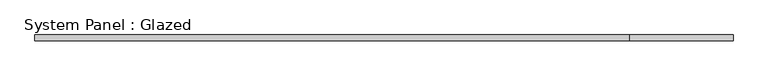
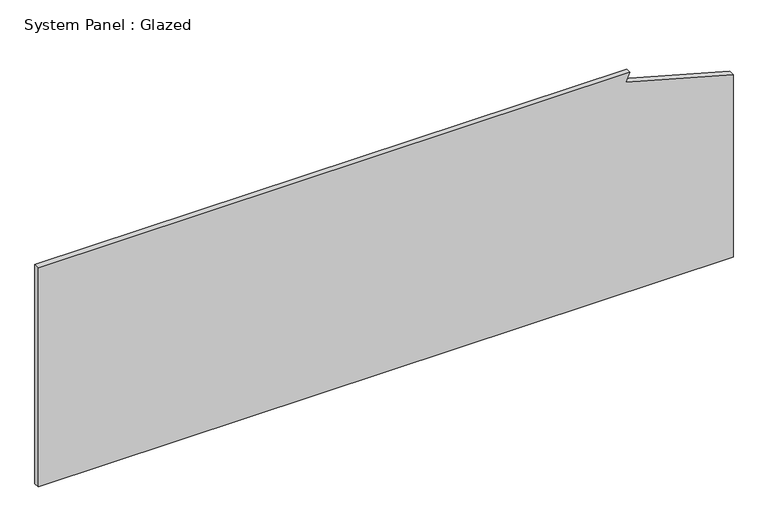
"""IFC4 building model written with IfcOpenShell, lengths in millimetres: plate geometry, System Panel : Glazed."""

import ifcopenshell
import ifcopenshell.guid

model = None  # the IFC model being written
_history = None  # IfcOwnerHistory: only IFC2X3 demands one
_inside = {}  # id of a spatial element -> (the spatial element, [elements in it])
_under = {}  # id of a project, library or spatial element -> (it, [spatial elements below it])
_declared = {}  # id of a project -> (the project, [libraries it declares])
_typed = {}  # id of a type object -> (the type object, [elements of that type])
_made_of = {}  # id of a material, layer set ... -> (it, [elements and type objects made of it])


def new_model(schema):
    """Start an empty IFC model of exactly this schema.

    Asked for "IFC4X3", IfcOpenShell would pick the latest addendum, in which some entities
    have other attributes; the version numbers below select the first issue.
    IFC2X3 requires an IfcOwnerHistory on every rooted entity: one is made here for all.
    """
    global model, _history
    if schema == "IFC4X3":
        model = ifcopenshell.file(schema_version=(4, 3, 0, 0))
    else:
        model = ifcopenshell.file(schema=schema)
    _inside.clear()
    _under.clear()
    _declared.clear()
    _typed.clear()
    _made_of.clear()
    _history = None
    if model.schema == "IFC2X3":
        org = make("IfcOrganization", Name="unknown")
        user = make(
            "IfcPersonAndOrganization",
            ThePerson=make("IfcPerson", FamilyName="unknown"),
            TheOrganization=org,
        )
        app = make(
            "IfcApplication",
            ApplicationDeveloper=org,
            Version="unknown",
            ApplicationFullName="unknown",
            ApplicationIdentifier="unknown",
        )
        _history = make(
            "IfcOwnerHistory",
            OwningUser=user,
            OwningApplication=app,
            ChangeAction="ADDED",
            CreationDate=0,
        )
    return model


def make(cls, **values):
    """One entity of the class cls with the attributes given. An attribute that is None is left unset."""
    return model.create_entity(
        cls, **{name: value for name, value in values.items() if value is not None}
    )


def rooted(cls, **values):
    """An entity with a GlobalId (a new one), such as an element, a storey or a relation."""
    return make(cls, GlobalId=ifcopenshell.guid.new(), OwnerHistory=_history, **values)


def si_unit(unit_type, name, prefix=None):
    """IfcSIUnit, for example si_unit("LENGTHUNIT", "METRE", prefix="MILLI")."""
    return make("IfcSIUnit", UnitType=unit_type, Prefix=prefix, Name=name)


def assignment(units):
    """IfcUnitAssignment: the units of a project."""
    return None if units is None else make("IfcUnitAssignment", Units=units)


def point(xyz):
    """IfcCartesianPoint."""
    return None if xyz is None else make("IfcCartesianPoint", Coordinates=xyz)


def direction(xyz):
    """IfcDirection."""
    return None if xyz is None else make("IfcDirection", DirectionRatios=xyz)


def frame(location, z_axis=None, x_axis=None):
    """IfcAxis2Placement3D, a coordinate frame: its origin and axes. An axis left out is left unset."""
    return make(
        "IfcAxis2Placement3D",
        Location=point(location),
        Axis=direction(z_axis),
        RefDirection=direction(x_axis),
    )


def origin():
    """The frame at (0, 0, 0) with its axes left unset."""
    return frame((0.0, 0.0, 0.0))


def place(relative_to, where):
    """IfcLocalPlacement: puts the frame where relative to a parent placement (None: the world)."""
    return make(
        "IfcLocalPlacement", PlacementRelTo=relative_to, RelativePlacement=where
    )


def context(
    kind, dimensions, precision=None, world=None, true_north=None, identifier=None
):
    """IfcGeometricRepresentationContext, for example the 3D "Model" context."""
    return make(
        "IfcGeometricRepresentationContext",
        ContextIdentifier=identifier,
        ContextType=kind,
        CoordinateSpaceDimension=dimensions,
        Precision=precision,
        WorldCoordinateSystem=world,
        TrueNorth=true_north,
    )


def project(units=None, contexts=None):
    """IfcProject with its units and contexts."""
    return rooted(
        "IfcProject",
        Name="project",
        RepresentationContexts=contexts,
        UnitsInContext=assignment(units),
    )


def spatial(cls, under=None, at=None, **own):
    """A site, building, storey or space (cls), placed at a placement, below another one or the project."""
    s = rooted(cls, ObjectPlacement=at, **own)
    if under is not None:
        _under.setdefault(under.id(), (under, []))[1].append(s)
    return s


def polyline(points):
    """IfcPolyline through the points."""
    return make("IfcPolyline", Points=[point(p) for p in points])


def outline(outer, holes=None, kind="AREA"):
    """IfcArbitraryClosedProfileDef: a profile drawn as a closed curve; with holes, ...WithVoids."""
    if holes is None:
        return make("IfcArbitraryClosedProfileDef", ProfileType=kind, OuterCurve=outer)
    return make(
        "IfcArbitraryProfileDefWithVoids",
        ProfileType=kind,
        OuterCurve=outer,
        InnerCurves=holes,
    )


def extrude(swept, where, along, depth):
    """IfcExtrudedAreaSolid: the profile swept, set in the frame where, extruded along a direction by depth."""
    return make(
        "IfcExtrudedAreaSolid",
        SweptArea=swept,
        Position=where,
        ExtrudedDirection=direction(along),
        Depth=depth,
    )


def shape(context_of_items, identifier, shape_type, items):
    """IfcShapeRepresentation: the items that make up one representation, for example the "Body"."""
    return make(
        "IfcShapeRepresentation",
        ContextOfItems=context_of_items,
        RepresentationIdentifier=identifier,
        RepresentationType=shape_type,
        Items=items,
    )


def source(mapping_origin, context_of_items, identifier, shape_type, items):
    """IfcRepresentationMap: a shape defined once, which mapped items show again and again."""
    return make(
        "IfcRepresentationMap",
        MappingOrigin=mapping_origin,
        MappedRepresentation=shape(context_of_items, identifier, shape_type, items),
    )


def transform(
    local_origin,
    x_axis=None,
    y_axis=None,
    z_axis=None,
    scale=None,
    scale2=None,
    scale3=None,
    uniform=True,
):
    """IfcCartesianTransformationOperator3D, or its non-uniform kind. x_axis, y_axis, z_axis: its Axis1, 2, 3."""
    if uniform:
        return make(
            "IfcCartesianTransformationOperator3D",
            Axis1=direction(x_axis),
            Axis2=direction(y_axis),
            LocalOrigin=point(local_origin),
            Scale=scale,
            Axis3=direction(z_axis),
        )
    return make(
        "IfcCartesianTransformationOperator3DnonUniform",
        Axis1=direction(x_axis),
        Axis2=direction(y_axis),
        LocalOrigin=point(local_origin),
        Scale=scale,
        Axis3=direction(z_axis),
        Scale2=scale2,
        Scale3=scale3,
    )


def mapped(mapping_source, mapping_target):
    """IfcMappedItem: shows the shape of a source again, moved by a transform."""
    return make(
        "IfcMappedItem", MappingSource=mapping_source, MappingTarget=mapping_target
    )


def made_of(thing, what):
    """Note that an element or type object is made of a material, layer set ...; save() writes the relation."""
    if what is not None:
        _made_of.setdefault(what.id(), (what, []))[1].append(thing)
    return thing


def element(
    cls,
    number,
    at=None,
    inside=None,
    cuts=None,
    type_object=None,
    material=None,
    context=None,
    identifier="Body",
    shape_type=None,
    held_by="IfcProductDefinitionShape",
    body=None,
    shapes=None,
    **own,
):
    """One element of the class cls, such as IfcWall. Its Tag is "e" and its number.

    at: its placement. inside: the storey or other place that contains it. cuts: it is an
    opening in that element (IfcRelVoidsElement). A single representation is given by context,
    identifier, shape_type and body (its items); several are given by shapes. held_by: the class
    of the entity that holds the representations. save() writes the other relations.
    """
    e = rooted(cls, Tag="e%d" % number, ObjectPlacement=at, **own)
    if body is not None:
        shapes = [shape(context, identifier, shape_type, body)]
    if shapes is not None:
        e.Representation = make(held_by, Representations=shapes)
    if inside is not None:
        _inside.setdefault(inside.id(), (inside, []))[1].append(e)
    if cuts is not None:
        rooted(
            "IfcRelVoidsElement", RelatingBuildingElement=cuts, RelatedOpeningElement=e
        )
    if type_object is not None:
        _typed.setdefault(type_object.id(), (type_object, []))[1].append(e)
    return made_of(e, material)


def aggregate(whole, parts):
    """IfcRelAggregates: a whole, such as a stair, and the parts it consists of."""
    return rooted("IfcRelAggregates", RelatingObject=whole, RelatedObjects=parts)


def save(model, path):
    """Write the relations noted so far, then the file.

    IfcRelAggregates (storeys below a building ...), IfcRelContainedInSpatialStructure (elements
    in a storey), IfcRelDefinesByType, IfcRelAssociatesMaterial and IfcRelDeclares: one each for
    every whole, place, type object, material and project.
    """
    for whole, parts in _under.values():
        aggregate(whole, parts)
    for where, things in _inside.values():
        rooted(
            "IfcRelContainedInSpatialStructure",
            RelatedElements=things,
            RelatingStructure=where,
        )
    for kind, things in _typed.values():
        rooted("IfcRelDefinesByType", RelatedObjects=things, RelatingType=kind)
    for what, things in _made_of.values():
        rooted("IfcRelAssociatesMaterial", RelatedObjects=things, RelatingMaterial=what)
    for by, libraries in _declared.values():
        rooted("IfcRelDeclares", RelatingContext=by, RelatedDefinitions=libraries)
    model.write(path)


def system_panel_glazed_16cee4e4(model_context):
    return source(origin(), model_context, "Body", "SweptSolid", [
        extrude(outline(polyline([(0.0, -1504.95), (0.0, 1504.95), (836.7956976, 1504.95), (965.1309009, 1039.0203827), (1003.3, 1058.2788317), (1003.3, -1504.95), (0.0, -1504.95)])), frame((0.0, 19.05, 0.0), z_axis=(0.0, 1.0, 0.0), x_axis=(0.0, 0.0, 1.0)), (0.0, 0.0, 1.0), 25.4),
    ])


if __name__ == "__main__":
    model = new_model("IFC4")
    model_context = context("Model", 3, world=origin())
    ifc_project = project(units=[si_unit("LENGTHUNIT", "METRE", prefix="MILLI")], contexts=[model_context])
    site = spatial("IfcSite", under=ifc_project)
    building = spatial("IfcBuilding", under=site)
    placement = place(None, origin())
    system_panel_glazed_shape = system_panel_glazed_16cee4e4(model_context)
    element("IfcPlate", 1, ObjectType="System Panel : Glazed", at=placement, inside=building, context=model_context, shape_type="MappedRepresentation", body=[
        mapped(system_panel_glazed_shape, transform((0.0, 0.0, 0.0), x_axis=(1.0, 0.0, 0.0), y_axis=(0.0, 1.0, 0.0), z_axis=(0.0, 0.0, 1.0))),
    ])
    save(model, "model.ifc")
